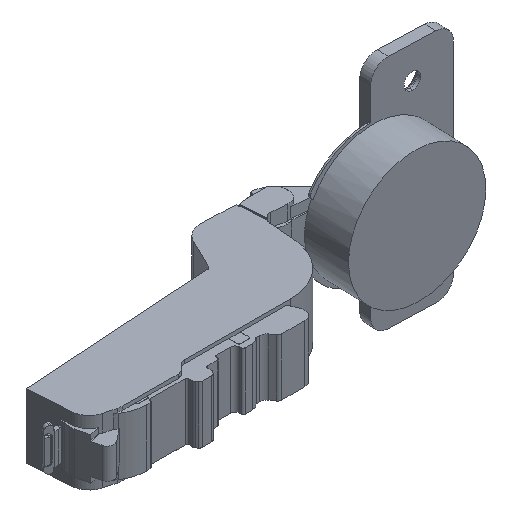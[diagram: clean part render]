
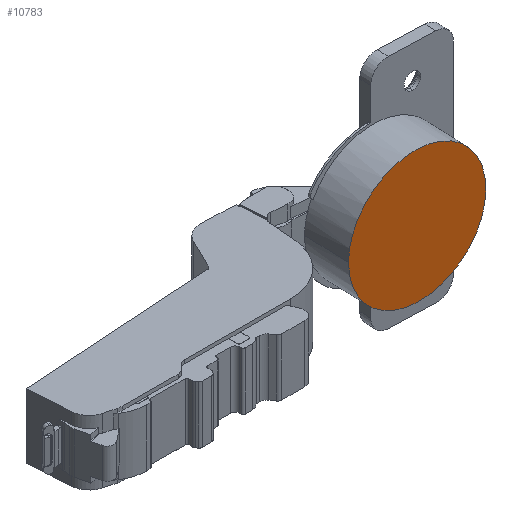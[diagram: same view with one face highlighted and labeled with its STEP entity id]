
A CAD part, isometric view. The second image highlights one B-rep face of the part: STEP entity #10783.
In plain terms, the highlighted planar face has unit normal (-0.036, -0.999, 0).
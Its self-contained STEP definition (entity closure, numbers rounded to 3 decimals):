
#1156 = AXIS2_PLACEMENT_3D ( 'NONE', #7094, #10491, #6271 ) ;
#1167 = PLANE ( 'NONE',  #1156 ) ;
#1434 = DIRECTION ( 'NONE',  ( 0.999, -0.036, 0. ) ) ;
#1468 = DIRECTION ( 'NONE',  ( -0.036, -0.999, 0. ) ) ;
#2090 = FACE_OUTER_BOUND ( 'NONE', #6504, .T. ) ;
#2497 = EDGE_CURVE ( 'NONE', #6831, #6037, #3793, .T. ) ;
#3421 = ORIENTED_EDGE ( 'NONE', *, *, #9973, .T. ) ;
#3680 = CARTESIAN_POINT ( 'NONE',  ( 78.816, 15.894, 0. ) ) ;
#3793 = CIRCLE ( 'NONE', #8751, 17.45 ) ;
#5820 = DIRECTION ( 'NONE',  ( 0.999, -0.036, 0. ) ) ;
#6037 = VERTEX_POINT ( 'NONE', #3680 ) ;
#6271 = DIRECTION ( 'NONE',  ( -0.999, 0.036, 0. ) ) ;
#6416 = CIRCLE ( 'NONE', #7495, 17.45 ) ;
#6504 = EDGE_LOOP ( 'NONE', ( #3421, #8368 ) ) ;
#6521 = CARTESIAN_POINT ( 'NONE',  ( 61.377, 16.525, 0. ) ) ;
#6831 = VERTEX_POINT ( 'NONE', #7061 ) ;
#7061 = CARTESIAN_POINT ( 'NONE',  ( 43.938, 17.156, 0. ) ) ;
#7094 = CARTESIAN_POINT ( 'NONE',  ( 61.377, 16.525, 0. ) ) ;
#7495 = AXIS2_PLACEMENT_3D ( 'NONE', #10836, #9878, #1434 ) ;
#8368 = ORIENTED_EDGE ( 'NONE', *, *, #2497, .T. ) ;
#8751 = AXIS2_PLACEMENT_3D ( 'NONE', #6521, #1468, #5820 ) ;
#9878 = DIRECTION ( 'NONE',  ( -0.036, -0.999, 0. ) ) ;
#9973 = EDGE_CURVE ( 'NONE', #6037, #6831, #6416, .T. ) ;
#10491 = DIRECTION ( 'NONE',  ( -0.036, -0.999, 0. ) ) ;
#10783 = ADVANCED_FACE ( 'NONE', ( #2090 ), #1167, .T. ) ;
#10836 = CARTESIAN_POINT ( 'NONE',  ( 61.377, 16.525, 0. ) ) ;
